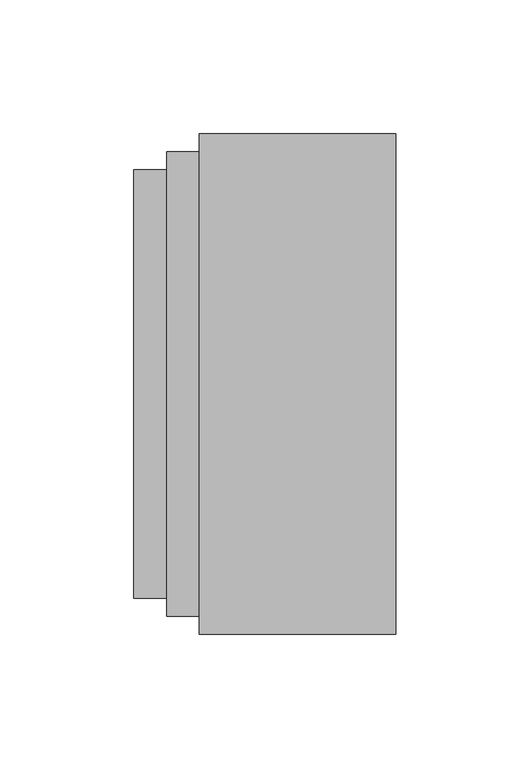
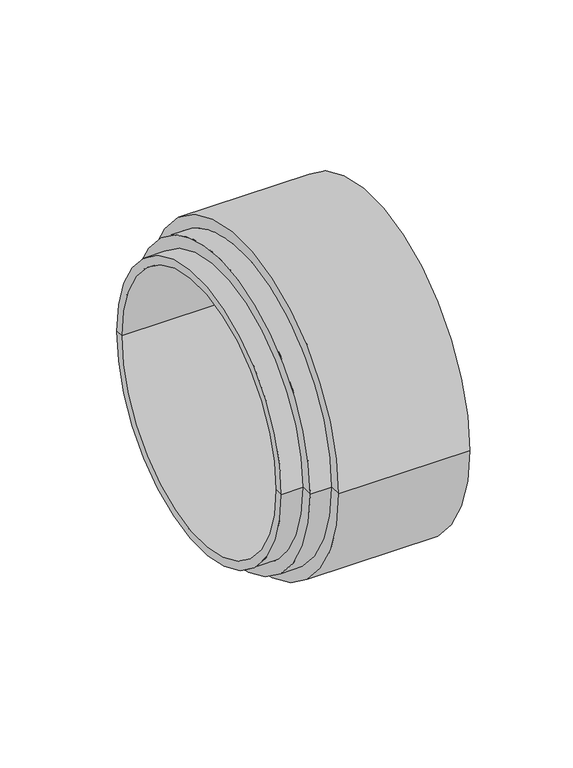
"""IFC4 building model written with IfcOpenShell, lengths in millimetres: pipe fitting geometry, OSMA_KG2000_PPKGUSM : Přechodka KG2000-Kamenina."""

import ifcopenshell
import ifcopenshell.guid

model = None  # the IFC model being written
_history = None  # IfcOwnerHistory: only IFC2X3 demands one
_inside = {}  # id of a spatial element -> (the spatial element, [elements in it])
_under = {}  # id of a project, library or spatial element -> (it, [spatial elements below it])
_declared = {}  # id of a project -> (the project, [libraries it declares])
_typed = {}  # id of a type object -> (the type object, [elements of that type])
_made_of = {}  # id of a material, layer set ... -> (it, [elements and type objects made of it])


def new_model(schema):
    """Start an empty IFC model of exactly this schema.

    Asked for "IFC4X3", IfcOpenShell would pick the latest addendum, in which some entities
    have other attributes; the version numbers below select the first issue.
    IFC2X3 requires an IfcOwnerHistory on every rooted entity: one is made here for all.
    """
    global model, _history
    if schema == "IFC4X3":
        model = ifcopenshell.file(schema_version=(4, 3, 0, 0))
    else:
        model = ifcopenshell.file(schema=schema)
    _inside.clear()
    _under.clear()
    _declared.clear()
    _typed.clear()
    _made_of.clear()
    _history = None
    if model.schema == "IFC2X3":
        org = make("IfcOrganization", Name="unknown")
        user = make(
            "IfcPersonAndOrganization",
            ThePerson=make("IfcPerson", FamilyName="unknown"),
            TheOrganization=org,
        )
        app = make(
            "IfcApplication",
            ApplicationDeveloper=org,
            Version="unknown",
            ApplicationFullName="unknown",
            ApplicationIdentifier="unknown",
        )
        _history = make(
            "IfcOwnerHistory",
            OwningUser=user,
            OwningApplication=app,
            ChangeAction="ADDED",
            CreationDate=0,
        )
    return model


def make(cls, **values):
    """One entity of the class cls with the attributes given. An attribute that is None is left unset."""
    return model.create_entity(
        cls, **{name: value for name, value in values.items() if value is not None}
    )


def rooted(cls, **values):
    """An entity with a GlobalId (a new one), such as an element, a storey or a relation."""
    return make(cls, GlobalId=ifcopenshell.guid.new(), OwnerHistory=_history, **values)


def si_unit(unit_type, name, prefix=None):
    """IfcSIUnit, for example si_unit("LENGTHUNIT", "METRE", prefix="MILLI")."""
    return make("IfcSIUnit", UnitType=unit_type, Prefix=prefix, Name=name)


def assignment(units):
    """IfcUnitAssignment: the units of a project."""
    return None if units is None else make("IfcUnitAssignment", Units=units)


def point(xyz):
    """IfcCartesianPoint."""
    return None if xyz is None else make("IfcCartesianPoint", Coordinates=xyz)


def direction(xyz):
    """IfcDirection."""
    return None if xyz is None else make("IfcDirection", DirectionRatios=xyz)


def frame(location, z_axis=None, x_axis=None):
    """IfcAxis2Placement3D, a coordinate frame: its origin and axes. An axis left out is left unset."""
    return make(
        "IfcAxis2Placement3D",
        Location=point(location),
        Axis=direction(z_axis),
        RefDirection=direction(x_axis),
    )


def origin():
    """The frame at (0, 0, 0) with its axes left unset."""
    return frame((0.0, 0.0, 0.0))


def place(relative_to, where):
    """IfcLocalPlacement: puts the frame where relative to a parent placement (None: the world)."""
    return make(
        "IfcLocalPlacement", PlacementRelTo=relative_to, RelativePlacement=where
    )


def context(
    kind, dimensions, precision=None, world=None, true_north=None, identifier=None
):
    """IfcGeometricRepresentationContext, for example the 3D "Model" context."""
    return make(
        "IfcGeometricRepresentationContext",
        ContextIdentifier=identifier,
        ContextType=kind,
        CoordinateSpaceDimension=dimensions,
        Precision=precision,
        WorldCoordinateSystem=world,
        TrueNorth=true_north,
    )


def project(units=None, contexts=None):
    """IfcProject with its units and contexts."""
    return rooted(
        "IfcProject",
        Name="project",
        RepresentationContexts=contexts,
        UnitsInContext=assignment(units),
    )


def spatial(cls, under=None, at=None, **own):
    """A site, building, storey or space (cls), placed at a placement, below another one or the project."""
    s = rooted(cls, ObjectPlacement=at, **own)
    if under is not None:
        _under.setdefault(under.id(), (under, []))[1].append(s)
    return s


def polyline(points):
    """IfcPolyline through the points."""
    return make("IfcPolyline", Points=[point(p) for p in points])


def circle_curve(where, radius):
    """IfcCircle in the frame where."""
    return make("IfcCircle", Position=where, Radius=radius)


def shape(context_of_items, identifier, shape_type, items):
    """IfcShapeRepresentation: the items that make up one representation, for example the "Body"."""
    return make(
        "IfcShapeRepresentation",
        ContextOfItems=context_of_items,
        RepresentationIdentifier=identifier,
        RepresentationType=shape_type,
        Items=items,
    )


def source(mapping_origin, context_of_items, identifier, shape_type, items):
    """IfcRepresentationMap: a shape defined once, which mapped items show again and again."""
    return make(
        "IfcRepresentationMap",
        MappingOrigin=mapping_origin,
        MappedRepresentation=shape(context_of_items, identifier, shape_type, items),
    )


def transform(
    local_origin,
    x_axis=None,
    y_axis=None,
    z_axis=None,
    scale=None,
    scale2=None,
    scale3=None,
    uniform=True,
):
    """IfcCartesianTransformationOperator3D, or its non-uniform kind. x_axis, y_axis, z_axis: its Axis1, 2, 3."""
    if uniform:
        return make(
            "IfcCartesianTransformationOperator3D",
            Axis1=direction(x_axis),
            Axis2=direction(y_axis),
            LocalOrigin=point(local_origin),
            Scale=scale,
            Axis3=direction(z_axis),
        )
    return make(
        "IfcCartesianTransformationOperator3DnonUniform",
        Axis1=direction(x_axis),
        Axis2=direction(y_axis),
        LocalOrigin=point(local_origin),
        Scale=scale,
        Axis3=direction(z_axis),
        Scale2=scale2,
        Scale3=scale3,
    )


def mapped(mapping_source, mapping_target):
    """IfcMappedItem: shows the shape of a source again, moved by a transform."""
    return make(
        "IfcMappedItem", MappingSource=mapping_source, MappingTarget=mapping_target
    )


def made_of(thing, what):
    """Note that an element or type object is made of a material, layer set ...; save() writes the relation."""
    if what is not None:
        _made_of.setdefault(what.id(), (what, []))[1].append(thing)
    return thing


def element(
    cls,
    number,
    at=None,
    inside=None,
    cuts=None,
    type_object=None,
    material=None,
    context=None,
    identifier="Body",
    shape_type=None,
    held_by="IfcProductDefinitionShape",
    body=None,
    shapes=None,
    **own,
):
    """One element of the class cls, such as IfcWall. Its Tag is "e" and its number.

    at: its placement. inside: the storey or other place that contains it. cuts: it is an
    opening in that element (IfcRelVoidsElement). A single representation is given by context,
    identifier, shape_type and body (its items); several are given by shapes. held_by: the class
    of the entity that holds the representations. save() writes the other relations.
    """
    e = rooted(cls, Tag="e%d" % number, ObjectPlacement=at, **own)
    if body is not None:
        shapes = [shape(context, identifier, shape_type, body)]
    if shapes is not None:
        e.Representation = make(held_by, Representations=shapes)
    if inside is not None:
        _inside.setdefault(inside.id(), (inside, []))[1].append(e)
    if cuts is not None:
        rooted(
            "IfcRelVoidsElement", RelatingBuildingElement=cuts, RelatedOpeningElement=e
        )
    if type_object is not None:
        _typed.setdefault(type_object.id(), (type_object, []))[1].append(e)
    return made_of(e, material)


def aggregate(whole, parts):
    """IfcRelAggregates: a whole, such as a stair, and the parts it consists of."""
    return rooted("IfcRelAggregates", RelatingObject=whole, RelatedObjects=parts)


def save(model, path):
    """Write the relations noted so far, then the file.

    IfcRelAggregates (storeys below a building ...), IfcRelContainedInSpatialStructure (elements
    in a storey), IfcRelDefinesByType, IfcRelAssociatesMaterial and IfcRelDeclares: one each for
    every whole, place, type object, material and project.
    """
    for whole, parts in _under.values():
        aggregate(whole, parts)
    for where, things in _inside.values():
        rooted(
            "IfcRelContainedInSpatialStructure",
            RelatedElements=things,
            RelatingStructure=where,
        )
    for kind, things in _typed.values():
        rooted("IfcRelDefinesByType", RelatedObjects=things, RelatingType=kind)
    for what, things in _made_of.values():
        rooted("IfcRelAssociatesMaterial", RelatedObjects=things, RelatingMaterial=what)
    for by, libraries in _declared.values():
        rooted("IfcRelDeclares", RelatingContext=by, RelatedDefinitions=libraries)
    model.write(path)


def plane_surface(at):
    """IfcPlane: the flat surface through the origin of the frame at, square to its z axis."""
    return make("IfcPlane", Position=at)


def cylinder_surface(at, radius):
    """IfcCylindricalSurface: all points at the distance radius from the z axis of the frame at."""
    return make("IfcCylindricalSurface", Position=at, Radius=radius)


def revolved_surface(curve, axis_point, axis_direction):
    """IfcSurfaceOfRevolution: the curve turned about the line through axis_point along axis_direction."""
    return make(
        "IfcSurfaceOfRevolution",
        SweptCurve=make("IfcArbitraryOpenProfileDef", ProfileType="CURVE", Curve=curve),
        AxisPosition=make("IfcAxis1Placement", Location=point(axis_point), Axis=direction(axis_direction)),
    )


def advanced_brep(points, edges, surfaces, faces):
    """IfcAdvancedBrep: a solid bounded by faces that lie on surfaces and meet in shared edges.

    An edge is (start, end): straight between two places in points (the first is 0);
    or (start, end, curve); or (start, end, curve, False) where it runs against its curve.
    A face is (place in surfaces, loops), or (place, loops, False) where it looks against
    its surface's normal. A loop lists edges by number (the first is 1), with a minus sign
    where the edge is run from its end to its start. The first loop is the outer one.
    """
    corners = [point(p) for p in points]
    vertices = [make("IfcVertexPoint", VertexGeometry=c) for c in corners]
    made = []
    for start, end, *more in edges:
        made.append(
            make(
                "IfcEdgeCurve",
                EdgeStart=vertices[start],
                EdgeEnd=vertices[end],
                EdgeGeometry=more[0] if more else make("IfcPolyline", Points=[corners[start], corners[end]]),
                SameSense=more[1] if len(more) > 1 else True,
            )
        )
    hull = []
    for where, loops, *sense in faces:
        bounds = []
        for j, loop in enumerate(loops):
            ring = [make("IfcOrientedEdge", EdgeElement=made[abs(k) - 1], Orientation=k > 0) for k in loop]
            bounds.append(
                make(
                    "IfcFaceOuterBound" if j == 0 else "IfcFaceBound",
                    Bound=make("IfcEdgeLoop", EdgeList=ring),
                    Orientation=True,
                )
            )
        hull.append(make("IfcAdvancedFace", Bounds=bounds, FaceSurface=surfaces[where], SameSense=sense[0] if sense else True))
    return make("IfcAdvancedBrep", Outer=make("IfcClosedShell", CfsFaces=hull))


def pipe_fitting_0bbe38b4(model_context):
    return source(origin(), model_context, "Body", "AdvancedBrep", [
        advanced_brep(
        [(-24.5, -93.5, 0.0), (-24.5, 93.5, 0.0), (49.0, 93.5, 0.0), (49.0, -93.5, 0.0), (-24.5, -86.75, 0.0), (-24.5, 86.75, 0.0), (-36.75, -86.75, 0.0), (-36.75, 86.75, 0.0), (-36.75, -80.0, 0.0), (-36.75, 80.0, 0.0), (-49.0, -80.0, 0.0), (-49.0, 80.0, 0.0), (-49.0, -75.3031612, 0.0), (-49.0, 75.3031612, 0.0), (49.0, -75.3031612, 0.0), (49.0, 75.3031612, 0.0)],
        [
            (0, 1, circle_curve(frame((-24.5, 0.0, 0.0), z_axis=(1.0, 0.0, 0.0), x_axis=(0.0, 1.0, 0.0)), 93.5)),
            (1, 2),
            (2, 3, circle_curve(frame((49.0, 0.0, 0.0), z_axis=(-1.0, 0.0, 0.0), x_axis=(0.0, 1.0, 0.0)), 93.5)),
            (3, 0),
            (1, 0, circle_curve(frame((-24.5, 0.0, 0.0), z_axis=(1.0, 0.0, 0.0), x_axis=(0.0, 1.0, 0.0)), 93.5)),
            (3, 2, circle_curve(frame((49.0, 0.0, 0.0), z_axis=(-1.0, 0.0, 0.0), x_axis=(0.0, 1.0, 0.0)), 93.5)),
            (4, 5, circle_curve(frame((-24.5, 0.0, 0.0), z_axis=(1.0, 0.0, 0.0), x_axis=(0.0, 1.0, 0.0)), 86.75)),
            (5, 1),
            (0, 4),
            (5, 4, circle_curve(frame((-24.5, 0.0, 0.0), z_axis=(1.0, 0.0, 0.0), x_axis=(0.0, 1.0, 0.0)), 86.75)),
            (6, 7, circle_curve(frame((-36.75, 0.0, 0.0), z_axis=(1.0, 0.0, 0.0), x_axis=(0.0, 1.0, 0.0)), 86.75)),
            (7, 5),
            (4, 6),
            (7, 6, circle_curve(frame((-36.75, 0.0, 0.0), z_axis=(1.0, 0.0, 0.0), x_axis=(0.0, 1.0, 0.0)), 86.75)),
            (8, 9, circle_curve(frame((-36.75, 0.0, 0.0), z_axis=(1.0, 0.0, 0.0), x_axis=(0.0, 1.0, 0.0)), 80.0)),
            (9, 7),
            (6, 8),
            (9, 8, circle_curve(frame((-36.75, 0.0, 0.0), z_axis=(1.0, 0.0, 0.0), x_axis=(0.0, 1.0, 0.0)), 80.0)),
            (10, 11, circle_curve(frame((-49.0, 0.0, 0.0), z_axis=(1.0, 0.0, 0.0), x_axis=(0.0, 1.0, 0.0)), 80.0)),
            (11, 9),
            (8, 10),
            (11, 10, circle_curve(frame((-49.0, 0.0, 0.0), z_axis=(1.0, 0.0, 0.0), x_axis=(0.0, 1.0, 0.0)), 80.0)),
            (12, 13, circle_curve(frame((-49.0, 0.0, 0.0), z_axis=(1.0, 0.0, 0.0), x_axis=(0.0, 1.0, 0.0)), 75.3031612)),
            (13, 11),
            (10, 12),
            (13, 12, circle_curve(frame((-49.0, 0.0, 0.0), z_axis=(1.0, 0.0, 0.0), x_axis=(0.0, 1.0, 0.0)), 75.3031612)),
            (14, 15, circle_curve(frame((49.0, 0.0, 0.0), z_axis=(1.0, 0.0, 0.0), x_axis=(0.0, 1.0, 0.0)), 75.3031612)),
            (15, 13),
            (12, 14),
            (15, 14, circle_curve(frame((49.0, 0.0, 0.0), z_axis=(1.0, 0.0, 0.0), x_axis=(0.0, 1.0, 0.0)), 75.3031612)),
            (2, 15),
            (14, 3),
        ],
        [
            cylinder_surface(frame((2003.5, 0.0, 0.0), z_axis=(-1.0, 0.0, 0.0), x_axis=(0.0, 1.0, 0.0)), 93.5),
            plane_surface(frame((-24.5, 0.0, 0.0), z_axis=(-1.0, 0.0, 0.0), x_axis=(0.0, 1.0, 0.0))),
            cylinder_surface(frame((2003.5, 0.0, 0.0), z_axis=(-1.0, 0.0, 0.0), x_axis=(0.0, 1.0, 0.0)), 86.75),
            plane_surface(frame((-36.75, 0.0, 0.0), z_axis=(-1.0, 0.0, 0.0), x_axis=(0.0, 1.0, 0.0))),
            cylinder_surface(frame((2003.5, 0.0, 0.0), z_axis=(-1.0, 0.0, 0.0), x_axis=(0.0, 1.0, 0.0)), 80.0),
            plane_surface(frame((-49.0, 0.0, 0.0), z_axis=(-1.0, 0.0, 0.0), x_axis=(0.0, 1.0, 0.0))),
            revolved_surface(polyline([(-49.0, 75.3031612, 0.0), (49.0, 75.3031612, 0.0)]), (2003.5, 0.0, 0.0), (-1.0, 0.0, 0.0)),
            plane_surface(frame((49.0, 0.0, 0.0), z_axis=(1.0, 0.0, 0.0), x_axis=(0.0, 1.0, 0.0))),
        ],
        [
            (0, [[1, 2, 3, 4]]),
            (0, [[5, -4, 6, -2]]),
            (1, [[7, 8, -1, 9]]),
            (1, [[10, -9, -5, -8]]),
            (2, [[11, 12, -7, 13]]),
            (2, [[14, -13, -10, -12]]),
            (3, [[15, 16, -11, 17]]),
            (3, [[18, -17, -14, -16]]),
            (4, [[19, 20, -15, 21]]),
            (4, [[22, -21, -18, -20]]),
            (5, [[23, 24, -19, 25]]),
            (5, [[26, -25, -22, -24]]),
            (6, [[27, 28, -23, 29]]),
            (6, [[30, -29, -26, -28]]),
            (7, [[-3, 31, -27, 32]]),
            (7, [[-6, -32, -30, -31]]),
        ],
    ),
    ])


if __name__ == "__main__":
    model = new_model("IFC4")
    model_context = context("Model", 3, world=origin())
    ifc_project = project(units=[si_unit("LENGTHUNIT", "METRE", prefix="MILLI")], contexts=[model_context])
    site = spatial("IfcSite", under=ifc_project)
    building = spatial("IfcBuilding", under=site)
    placement = place(None, origin())
    pipe_fitting_shape = pipe_fitting_0bbe38b4(model_context)
    element("IfcPipeFitting", 1, ObjectType="OSMA_KG2000_PPKGUSM : Přechodka KG2000-Kamenina", at=placement, inside=building, context=model_context, shape_type="MappedRepresentation", body=[
        mapped(pipe_fitting_shape, transform((0.0, 0.0, 0.0), x_axis=(1.0, 0.0, 0.0), y_axis=(0.0, 1.0, 0.0), z_axis=(0.0, 0.0, 1.0))),
    ])
    save(model, "model.ifc")
